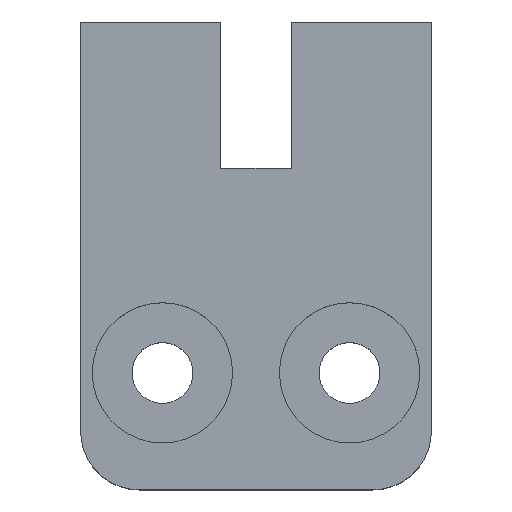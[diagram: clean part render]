
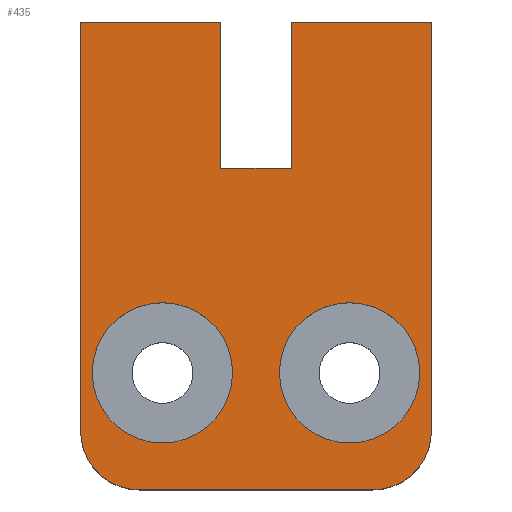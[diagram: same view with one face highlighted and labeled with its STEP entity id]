
A CAD part, top view. The second image highlights one B-rep face of the part: STEP entity #435.
In plain terms, the highlighted planar face has unit normal (0, 0, 1).
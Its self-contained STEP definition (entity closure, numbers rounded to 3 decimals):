
#87=CARTESIAN_POINT('',(10.,5.,12.));
#88=DIRECTION('',(0.,0.,1.));
#89=DIRECTION('',(0.,-1.,0.));
#90=AXIS2_PLACEMENT_3D('',#87,#88,#89);
#92=DIRECTION('',(1.,0.,0.));
#93=VECTOR('',#92,20.);
#94=CARTESIAN_POINT('',(-10.,0.,12.));
#95=LINE('',#94,#93);
#96=CARTESIAN_POINT('',(-10.,5.,12.));
#97=DIRECTION('',(0.,0.,1.));
#98=DIRECTION('',(-1.,0.,0.));
#99=AXIS2_PLACEMENT_3D('',#96,#97,#98);
#101=DIRECTION('',(0.,-1.,0.));
#102=VECTOR('',#101,35.);
#103=CARTESIAN_POINT('',(-15.,40.,12.));
#104=LINE('',#103,#102);
#105=DIRECTION('',(-1.,0.,0.));
#106=VECTOR('',#105,12.);
#107=CARTESIAN_POINT('',(-3.,40.,12.));
#108=LINE('',#107,#106);
#109=DIRECTION('',(0.,-1.,0.));
#110=VECTOR('',#109,12.5);
#111=CARTESIAN_POINT('',(-3.,40.,12.));
#112=LINE('',#111,#110);
#113=DIRECTION('',(1.,0.,0.));
#114=VECTOR('',#113,6.);
#115=CARTESIAN_POINT('',(-3.,27.5,12.));
#116=LINE('',#115,#114);
#117=DIRECTION('',(0.,-1.,0.));
#118=VECTOR('',#117,12.5);
#119=CARTESIAN_POINT('',(3.,40.,12.));
#120=LINE('',#119,#118);
#121=DIRECTION('',(-1.,0.,0.));
#122=VECTOR('',#121,12.);
#123=CARTESIAN_POINT('',(15.,40.,12.));
#124=LINE('',#123,#122);
#125=DIRECTION('',(0.,1.,0.));
#126=VECTOR('',#125,35.);
#127=CARTESIAN_POINT('',(15.,5.,12.));
#128=LINE('',#127,#126);
#129=CARTESIAN_POINT('',(-8.,10.,12.));
#130=DIRECTION('',(0.,0.,-1.));
#131=DIRECTION('',(-1.,0.,0.));
#132=AXIS2_PLACEMENT_3D('',#129,#130,#131);
#134=CARTESIAN_POINT('',(-8.,10.,12.));
#135=DIRECTION('',(0.,0.,-1.));
#136=DIRECTION('',(1.,0.,0.));
#137=AXIS2_PLACEMENT_3D('',#134,#135,#136);
#139=CARTESIAN_POINT('',(8.,10.,12.));
#140=DIRECTION('',(0.,0.,-1.));
#141=DIRECTION('',(-1.,0.,0.));
#142=AXIS2_PLACEMENT_3D('',#139,#140,#141);
#144=CARTESIAN_POINT('',(8.,10.,12.));
#145=DIRECTION('',(0.,0.,-1.));
#146=DIRECTION('',(1.,0.,0.));
#147=AXIS2_PLACEMENT_3D('',#144,#145,#146);
#247=CARTESIAN_POINT('',(15.,40.,12.));
#249=VERTEX_POINT('',#247);
#251=CARTESIAN_POINT('',(-15.,40.,12.));
#253=VERTEX_POINT('',#251);
#262=CARTESIAN_POINT('',(-3.,40.,12.));
#263=CARTESIAN_POINT('',(-3.,27.5,12.));
#264=VERTEX_POINT('',#262);
#265=VERTEX_POINT('',#263);
#266=CARTESIAN_POINT('',(3.,27.5,12.));
#267=VERTEX_POINT('',#266);
#268=CARTESIAN_POINT('',(3.,40.,12.));
#269=VERTEX_POINT('',#268);
#274=CARTESIAN_POINT('',(10.,0.,12.));
#275=VERTEX_POINT('',#274);
#276=CARTESIAN_POINT('',(15.,5.,12.));
#277=VERTEX_POINT('',#276);
#282=CARTESIAN_POINT('',(-15.,5.,12.));
#283=VERTEX_POINT('',#282);
#284=CARTESIAN_POINT('',(-10.,0.,12.));
#285=VERTEX_POINT('',#284);
#290=CARTESIAN_POINT('',(-14.,10.,12.));
#291=CARTESIAN_POINT('',(-2.,10.,12.));
#292=VERTEX_POINT('',#290);
#293=VERTEX_POINT('',#291);
#302=CARTESIAN_POINT('',(2.,10.,12.));
#303=CARTESIAN_POINT('',(14.,10.,12.));
#304=VERTEX_POINT('',#302);
#305=VERTEX_POINT('',#303);
#397=CARTESIAN_POINT('',(0.,0.,12.));
#398=DIRECTION('',(0.,0.,1.));
#399=DIRECTION('',(1.,0.,0.));
#400=AXIS2_PLACEMENT_3D('',#397,#398,#399);
#401=PLANE('',#400);
#403=ORIENTED_EDGE('',*,*,#402,.F.);
#405=ORIENTED_EDGE('',*,*,#404,.F.);
#407=ORIENTED_EDGE('',*,*,#406,.F.);
#409=ORIENTED_EDGE('',*,*,#408,.F.);
#411=ORIENTED_EDGE('',*,*,#410,.F.);
#413=ORIENTED_EDGE('',*,*,#412,.T.);
#415=ORIENTED_EDGE('',*,*,#414,.T.);
#417=ORIENTED_EDGE('',*,*,#416,.F.);
#419=ORIENTED_EDGE('',*,*,#418,.F.);
#421=ORIENTED_EDGE('',*,*,#420,.F.);
#422=EDGE_LOOP('',(#403,#405,#407,#409,#411,#413,#415,#417,#419,#421));
#423=FACE_OUTER_BOUND('',#422,.F.);
#424=ORIENTED_EDGE('',*,*,#387,.F.);
#426=ORIENTED_EDGE('',*,*,#425,.F.);
#427=EDGE_LOOP('',(#424,#426));
#428=FACE_BOUND('',#427,.F.);
#430=ORIENTED_EDGE('',*,*,#429,.F.);
#432=ORIENTED_EDGE('',*,*,#431,.F.);
#433=EDGE_LOOP('',(#430,#432));
#434=FACE_BOUND('',#433,.F.);
#435=ADVANCED_FACE('',(#423,#428,#434),#401,.T.);
#91=CIRCLE('',#90,5.);
#100=CIRCLE('',#99,5.);
#133=CIRCLE('',#132,6.);
#138=CIRCLE('',#137,6.);
#143=CIRCLE('',#142,6.);
#148=CIRCLE('',#147,6.);
#387=EDGE_CURVE('',#292,#293,#133,.T.);
#402=EDGE_CURVE('',#275,#277,#91,.T.);
#404=EDGE_CURVE('',#285,#275,#95,.T.);
#406=EDGE_CURVE('',#283,#285,#100,.T.);
#408=EDGE_CURVE('',#253,#283,#104,.T.);
#410=EDGE_CURVE('',#264,#253,#108,.T.);
#412=EDGE_CURVE('',#264,#265,#112,.T.);
#414=EDGE_CURVE('',#265,#267,#116,.T.);
#416=EDGE_CURVE('',#269,#267,#120,.T.);
#418=EDGE_CURVE('',#249,#269,#124,.T.);
#420=EDGE_CURVE('',#277,#249,#128,.T.);
#425=EDGE_CURVE('',#293,#292,#138,.T.);
#429=EDGE_CURVE('',#304,#305,#143,.T.);
#431=EDGE_CURVE('',#305,#304,#148,.T.);
